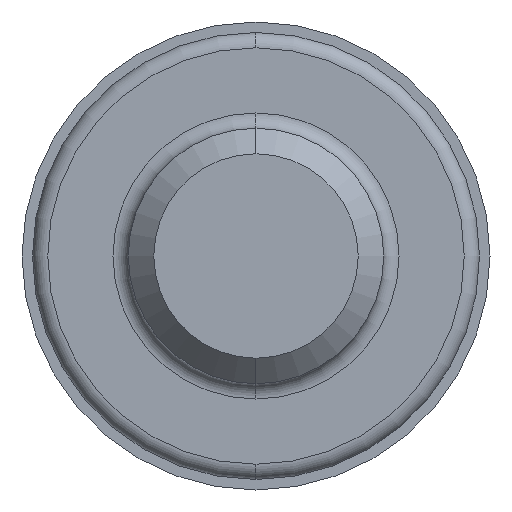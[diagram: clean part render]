
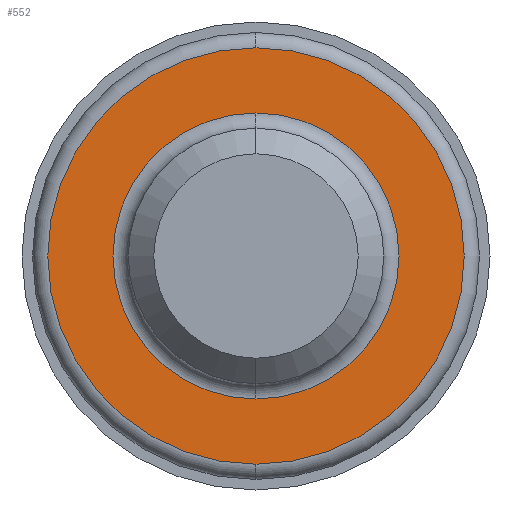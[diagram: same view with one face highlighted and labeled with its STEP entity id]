
A CAD part, left-side view. The second image highlights one B-rep face of the part: STEP entity #552.
In plain terms, the highlighted planar face has unit normal (-1, 0, 0).
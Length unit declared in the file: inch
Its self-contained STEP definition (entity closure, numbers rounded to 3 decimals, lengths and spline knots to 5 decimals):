
#5 = ORIENTED_EDGE ( 'NONE', *, *, #313, .T. ) ;
#8 = CARTESIAN_POINT ( 'NONE',  ( 2., 0., 0. ) ) ;
#14 = CIRCLE ( 'NONE', #526, 0.28 ) ;
#23 = DIRECTION ( 'NONE',  ( -1., 0., 0. ) ) ;
#35 = CARTESIAN_POINT ( 'NONE',  ( 2., 0., 0. ) ) ;
#42 = CARTESIAN_POINT ( 'NONE',  ( 2., 0., -0.28 ) ) ;
#46 = EDGE_LOOP ( 'NONE', ( #567, #5 ) ) ;
#100 = AXIS2_PLACEMENT_3D ( 'NONE', #543, #348, #189 ) ;
#138 = CIRCLE ( 'NONE', #204, 0.4075 ) ;
#151 = FACE_OUTER_BOUND ( 'NONE', #46, .T. ) ;
#168 = VERTEX_POINT ( 'NONE', #323 ) ;
#177 = DIRECTION ( 'NONE',  ( 0., 0., 1. ) ) ;
#181 = DIRECTION ( 'NONE',  ( -1., 0., 0. ) ) ;
#188 = ORIENTED_EDGE ( 'NONE', *, *, #201, .F. ) ;
#189 = DIRECTION ( 'NONE',  ( 0., 0., -1. ) ) ;
#201 = EDGE_CURVE ( 'NONE', #604, #225, #498, .T. ) ;
#204 = AXIS2_PLACEMENT_3D ( 'NONE', #35, #181, #177 ) ;
#210 = VERTEX_POINT ( 'NONE', #633 ) ;
#213 = EDGE_CURVE ( 'NONE', #168, #210, #138, .T. ) ;
#225 = VERTEX_POINT ( 'NONE', #42 ) ;
#243 = CARTESIAN_POINT ( 'NONE',  ( 2., 0., 0.28 ) ) ;
#256 = DIRECTION ( 'NONE',  ( 0., 0., 1. ) ) ;
#281 = AXIS2_PLACEMENT_3D ( 'NONE', #396, #346, #508 ) ;
#293 = CARTESIAN_POINT ( 'NONE',  ( 2., 0., 0. ) ) ;
#313 = EDGE_CURVE ( 'NONE', #210, #168, #582, .T. ) ;
#319 = DIRECTION ( 'NONE',  ( -1., 0., 0. ) ) ;
#323 = CARTESIAN_POINT ( 'NONE',  ( 2., 0., 0.4075 ) ) ;
#344 = FACE_BOUND ( 'NONE', #520, .T. ) ;
#346 = DIRECTION ( 'NONE',  ( -1., 0., 0. ) ) ;
#348 = DIRECTION ( 'NONE',  ( 1., 0., 0. ) ) ;
#352 = DIRECTION ( 'NONE',  ( 0., 0., 1. ) ) ;
#387 = ORIENTED_EDGE ( 'NONE', *, *, #566, .F. ) ;
#396 = CARTESIAN_POINT ( 'NONE',  ( 2., 0., 0. ) ) ;
#440 = AXIS2_PLACEMENT_3D ( 'NONE', #8, #23, #352 ) ;
#457 = PLANE ( 'NONE',  #100 ) ;
#498 = CIRCLE ( 'NONE', #281, 0.28 ) ;
#508 = DIRECTION ( 'NONE',  ( 0., 0., 1. ) ) ;
#520 = EDGE_LOOP ( 'NONE', ( #188, #387 ) ) ;
#526 = AXIS2_PLACEMENT_3D ( 'NONE', #293, #319, #256 ) ;
#543 = CARTESIAN_POINT ( 'NONE',  ( 2., 0.28, 0. ) ) ;
#552 = ADVANCED_FACE ( 'NONE', ( #344, #151 ), #457, .F. ) ;
#566 = EDGE_CURVE ( 'NONE', #225, #604, #14, .T. ) ;
#567 = ORIENTED_EDGE ( 'NONE', *, *, #213, .T. ) ;
#582 = CIRCLE ( 'NONE', #440, 0.4075 ) ;
#604 = VERTEX_POINT ( 'NONE', #243 ) ;
#633 = CARTESIAN_POINT ( 'NONE',  ( 2., 0., -0.4075 ) ) ;
